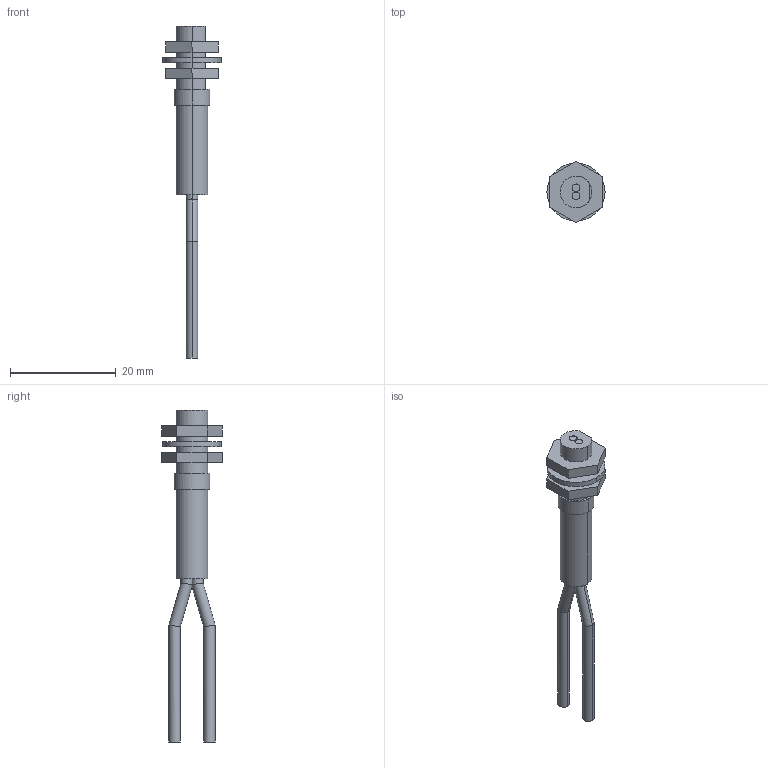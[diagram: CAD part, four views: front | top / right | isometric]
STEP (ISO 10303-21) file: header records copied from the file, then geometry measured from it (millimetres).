
FILE_DESCRIPTION (( 'STEP AP203' ), '1' );
FILE_NAME ('FD-B8.STEP', '2005-09-04T09:18:29', ( '川島良英' ), ( ' ' ), 'SwSTEP 2.0', 'SolidWorks 2004251', '' );
FILE_SCHEMA (( 'CONFIG_CONTROL_DESIGN' ));
Length unit declared in the file: millimetre
Products named in the file (1): FD-B8
Bounding box: 11 x 11.55 x 62.94 mm (x, y, z)
Volume: 1452.7 mm3; surface area: 1746 mm2
Topology: 4 solids, 4 shells, 57 faces, 124 edges, 80 vertices
Faces by surface type: cylinder 30, plane 27
Entity records: 1642 total; most frequent: CARTESIAN_POINT 292, DIRECTION 275, ORIENTED_EDGE 248, EDGE_CURVE 124, AXIS2_PLACEMENT_3D 103, VERTEX_POINT 80, VECTOR 69, LINE 69
